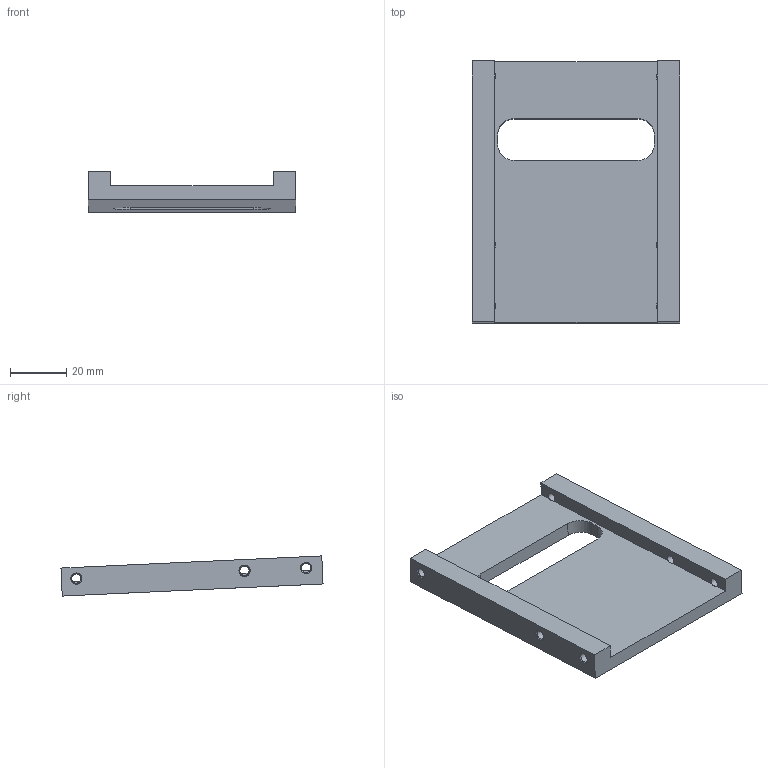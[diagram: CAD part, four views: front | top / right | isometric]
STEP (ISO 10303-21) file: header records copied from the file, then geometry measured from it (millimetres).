
FILE_DESCRIPTION(/* description */ (''),/* implementation_level */ '2;1');
FILE_NAME(/* name */ 'central_force_bracket_26012016.stp',/* time_stamp */ '2016-01-26T01:28:26+03:00',/* author */ (''),/* organization */ (''),/* preprocessor_version */ 'ST-DEVELOPER v15',/* originating_system */ 'SIEMENS PLM Software NX 9.0',/* authorisation */ '');
FILE_SCHEMA (('AUTOMOTIVE_DESIGN { 1 0 10303 214 3 1 1 1 }'));
Length unit declared in the file: millimetre
Products named in the file (1): c0f007BCC3D27iuj
Bounding box: 74 x 93.47 x 14.31 mm (x, y, z)
Volume: 37436.5 mm3; surface area: 16907.9 mm2
Topology: 1 solids, 1 shells, 36 faces, 105 edges, 65 vertices
Faces by surface type: plane 14, cone 12, cylinder 10
Full cylindrical faces by diameter (mm): 3.3 x6
Entity records: 1160 total; most frequent: CARTESIAN_POINT 249, DIRECTION 184, ORIENTED_EDGE 168, EDGE_CURVE 84, AXIS2_PLACEMENT_3D 69, EDGE_LOOP 56, VERTEX_POINT 56, LINE 46
